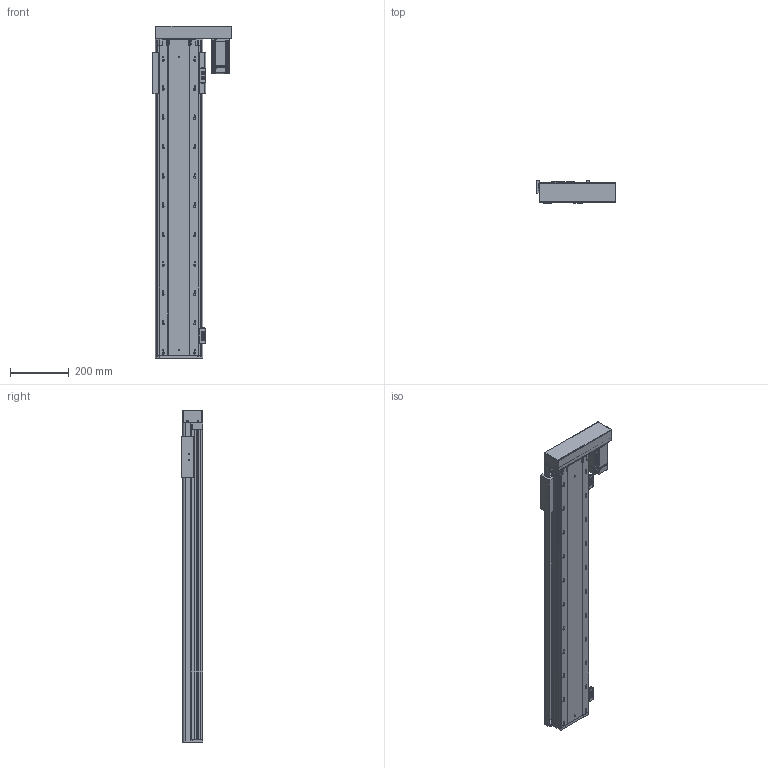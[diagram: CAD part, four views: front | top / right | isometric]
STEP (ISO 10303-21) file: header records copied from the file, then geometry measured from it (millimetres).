
FILE_DESCRIPTION (( 'STEP AP203' ), '1' );
FILE_NAME ('RY140FB-L2010-300-RK.SLDASM_850.step', '2021-02-23T02:41:15', ( '盈信电脑' ), ( '东莞市道滘镇水果街19号' ), 'SwSTEP 2.0', 'SolidWorks 2012', '' );
FILE_SCHEMA (( 'CONFIG_CONTROL_DESIGN' ));
Length unit declared in the file: millimetre
Products named in the file (17): RY140FB-酘衵殏萇儂欶; RY140FB-左右折电机安装板; RY140FB-覜茼え; RY140FB-L2010-300-RK.SLDASM_850; 覜茼ん674; RY140-674嫖萇耀輸; RY140直线电机感应器674光电安装座; RY140FB-20佪裝臏賑輸; 15; 侂狟400W侜督萇儂; RY140FB-300蛌殏奻裔啣-RK_850; 滅袉蝶18-10; RY140FB-转折电机端支撑座(7002); RY140FB-綴裔啣; 滅袉蝶18-24; RY140FB-300蛌殏倰第菁釱-RK_850
Assembly tree (20 placements, depth 3):
  RY140FB-L2010-300-RK.SLDASM_850
    RY140FB-300蛌殏倰第菁釱-RK_850
    RY140FB-綴裔啣
    滅袉蝶18-24  x2
    滅袉蝶18-10
    RY140FB-转折电机端支撑座(7002)
    侂狟400W侜督萇儂
      15
    RY140FB-20佪裝臏賑輸
    RY140FB-300蛌殏奻裔啣-RK_850
    RY140-674嫖萇耀輸
      覜茼ん674
      RY140直线电机感应器674光电安装座
    RY140-674嫖萇耀輸
      覜茼ん674  x2
      RY140直线电机感应器674光电安装座
    RY140FB-覜茼え
    RY140FB-左右折电机安装板
    RY140FB-酘衵殏萇儂欶
Bounding box: 271.3 x 75 x 1133.2 mm (x, y, z)
Volume: 4424827.2 mm3; surface area: 1478977.5 mm2
Topology: 17 solids, 17 shells, 1878 faces, 5183 edges, 3293 vertices
Faces by surface type: cylinder 941, plane 727, cone 182, bspline 28
Entity records: 57221 total; most frequent: CARTESIAN_POINT 11725, DIRECTION 9228, ORIENTED_EDGE 9050, EDGE_CURVE 4525, AXIS2_PLACEMENT_3D 3352, VERTEX_POINT 2961, VECTOR 2524, LINE 2524
